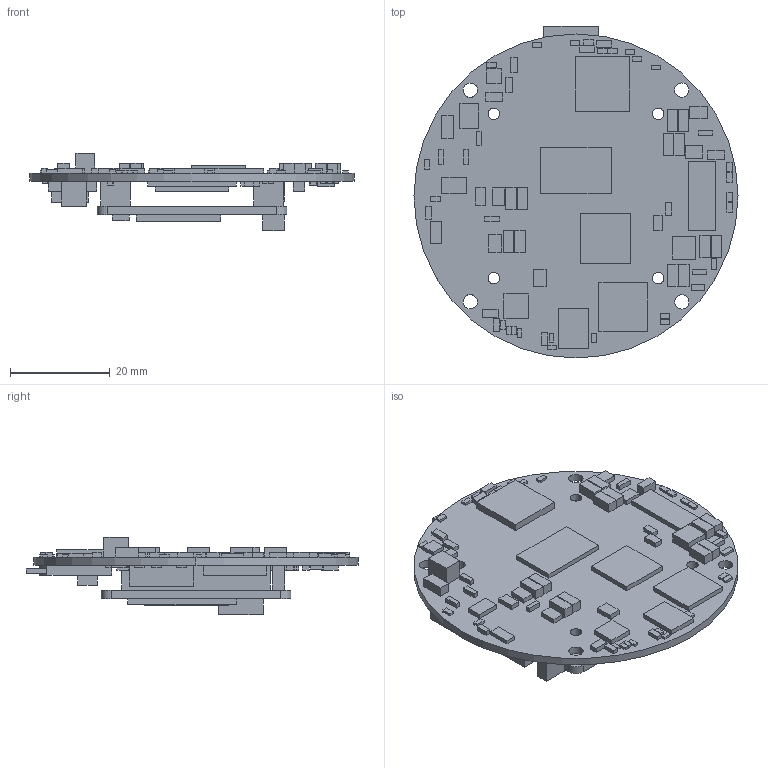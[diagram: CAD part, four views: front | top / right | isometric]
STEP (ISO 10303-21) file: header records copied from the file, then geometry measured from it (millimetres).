
FILE_DESCRIPTION((''),'2;1');
FILE_NAME('GENZONGQI_YUANBAN_ASM','2021-03-19T',('Administrator'),(''),'CREO PARAMETRIC BY PTC INC, 2014050','CREO PARAMETRIC BY PTC INC, 2014050','');
FILE_SCHEMA(('CONFIG_CONTROL_DESIGN'));
Length unit declared in the file: millimetre
Products named in the file (5): TRACKER_CCTS_V3_0_TOP-333; BOARD_FPGA_2; BOX_ASM_2_ASM; IR42_ASM_1_ASM; GENZONGQI_YUANBAN_ASM
Assembly tree (4 placements, depth 4):
  GENZONGQI_YUANBAN_ASM
    TRACKER_CCTS_V3_0_TOP-333
    IR42_ASM_1_ASM
      BOX_ASM_2_ASM
        BOARD_FPGA_2
Bounding box: 65 x 66.6 x 15.5 mm (x, y, z)
Volume: 12831.4 mm3; surface area: 13050.2 mm2
Topology: 2 solids, 2 shells, 629 faces, 1554 edges, 1037 vertices
Faces by surface type: plane 597, cylinder 32
Entity records: 18469 total; most frequent: CARTESIAN_POINT 3234, ORIENTED_EDGE 3108, DIRECTION 2900, EDGE_CURVE 1554, VECTOR 1486, LINE 1486, VERTEX_POINT 1037, EDGE_LOOP 761
